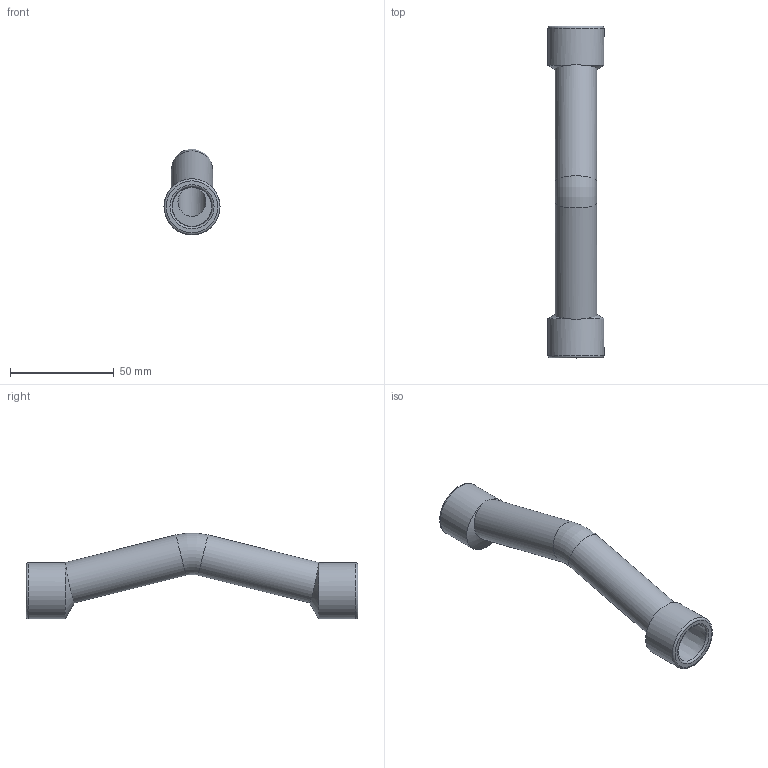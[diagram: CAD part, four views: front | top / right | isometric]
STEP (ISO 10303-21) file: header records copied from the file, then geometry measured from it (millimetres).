
FILE_DESCRIPTION(('STEP AP203'), '1');
FILE_NAME('ÂÐ.747111.020 - VTp.776.L.020', '', ('UNSPECIFIED'), ('UNSPECIFIED'), 'C3D Converter', 'C3D Toolkit', '');
FILE_SCHEMA(('CONFIG_CONTROL_DESIGN'));
Length unit declared in the file: millimetre
Products named in the file (1): ВР.747111.020
Bounding box: 27 x 160 x 41.27 mm (x, y, z)
Volume: 34027.1 mm3; surface area: 19678.1 mm2
Topology: 1 solids, 1 shells, 20 faces, 40 edges, 24 vertices
Faces by surface type: cylinder 6, torus 6, plane 4, cone 4
Full cylindrical faces by diameter (mm): 13.5 x2, 20 x2, 27 x2
Entity records: 744 total; most frequent: CARTESIAN_POINT 341, DIRECTION 78, ORIENTED_EDGE 52, AXIS2_PLACEMENT_3D 39, EDGE_LOOP 38, EDGE_CURVE 26, FACE_OUTER_BOUND 24, VERTEX_POINT 24
